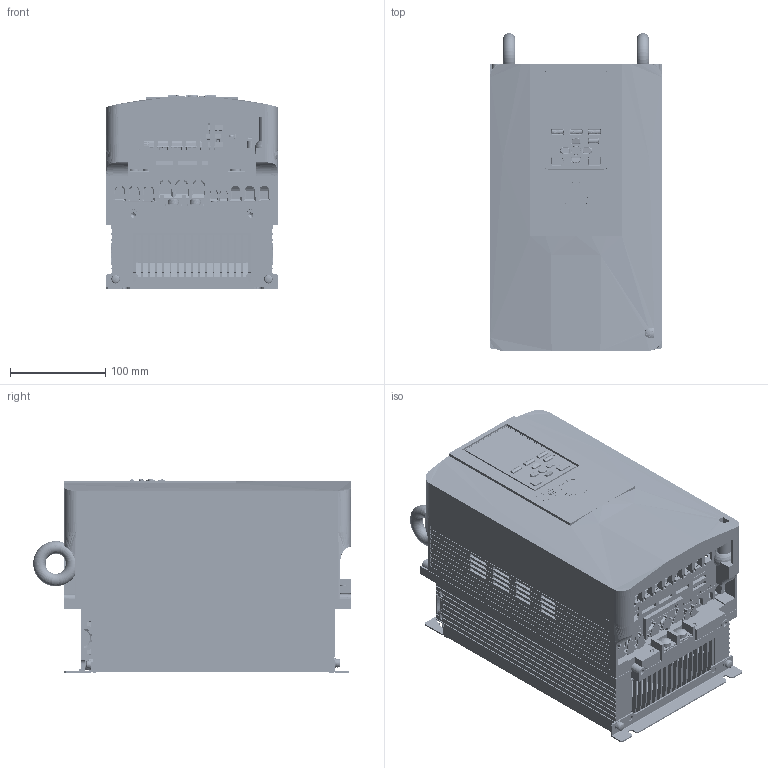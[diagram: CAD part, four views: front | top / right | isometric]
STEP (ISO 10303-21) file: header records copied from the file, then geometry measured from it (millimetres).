
FILE_DESCRIPTION((''),'2;1');
FILE_NAME('A2_4015_OPEN_ASM','2016-05-20T',('y-toki'),('YASKAWA ELECTRIC CORCORATION'),'PRO/ENGINEER BY PARAMETRIC TECHNOLOGY CORPORATION, 2015110','PRO/ENGINEER BY PARAMETRIC TECHNOLOGY CORPORATION, 2015110','');
FILE_SCHEMA(('AUTOMOTIVE_DESIGN { 1 0 10303 214 1 1 1 1 }'));
Products named in the file (27): A2_4015_OPEN_BASE; A2_4015_OPEN_MTG_PLATE1; MS15_M5X14; A2_4015_OPEN_MTG_PLATE2; A_GEM_OPEN_60FAN; A2_4015_OPEN_FAN_COVER; MS15_M4X20; A_GEM_OPEN_CONT_TERMINAL_BOARD1; MK3DSN1P5_3-5P08; MKDSN1P5_11; SMKDSN1P5_12; SMKDSN1P5_9; TBET31116_1_1; TBET31116_1_2; TBET31116-B_1_3_I2; TBET31116-B_1_ASM; TBET31116_2; TBET31116-B_ASM; A_GEM_OPEN_CONT_TERMINAL_BOARD_ASM; A_GEM_OPEN_LED; A2_4015_OPEN_IP20_COVER; A2_4015_OPEN_FP; A_GEM_OPEN_USB_COVER; 2005951081PDM000_01_UNIT_MODEL; A_GEM_OPEN_LCD_OPERATOR; SCAT41094; A2_4015_OPEN_ASM
Assembly tree (31 placements, depth 5):
  A2_4015_OPEN_ASM
    A2_4015_OPEN_BASE
    A2_4015_OPEN_MTG_PLATE1
    MS15_M5X14  x4
    A2_4015_OPEN_MTG_PLATE2
    A_GEM_OPEN_60FAN  x2
    A2_4015_OPEN_FAN_COVER
    MS15_M4X20
    A_GEM_OPEN_CONT_TERMINAL_BOARD_ASM
      A_GEM_OPEN_CONT_TERMINAL_BOARD1
      MK3DSN1P5_3-5P08
      MKDSN1P5_11
      SMKDSN1P5_12
      SMKDSN1P5_9
      TBET31116-B_ASM
        TBET31116-B_1_ASM
          TBET31116_1_1
          TBET31116_1_2
          TBET31116-B_1_3_I2
        TBET31116_2
    A_GEM_OPEN_LED
    A2_4015_OPEN_IP20_COVER
    A2_4015_OPEN_FP
    A_GEM_OPEN_USB_COVER
    2005951081PDM000_01_UNIT_MODEL
    A_GEM_OPEN_LCD_OPERATOR
    SCAT41094  x2
Bounding box: 180 x 332.69 x 202.8 mm (x, y, z)
Surface area: 1021673.7 mm2 (no closed solid volume)
Topology: 0 solids, 0 shells, 11382 faces, 62714 edges, 62470 vertices
Faces by surface type: bspline 11153, torus 199, sphere 30
Entity records: 973512 total; most frequent: CARTESIAN_POINT 308132, DIRECTION 86805, TRIMMED_CURVE 82286, VECTOR 78287, LINE 78287, DEFINITIONAL_REPRESENTATION 60498, PCURVE 60498, COMPOSITE_CURVE_SEGMENT 60498
